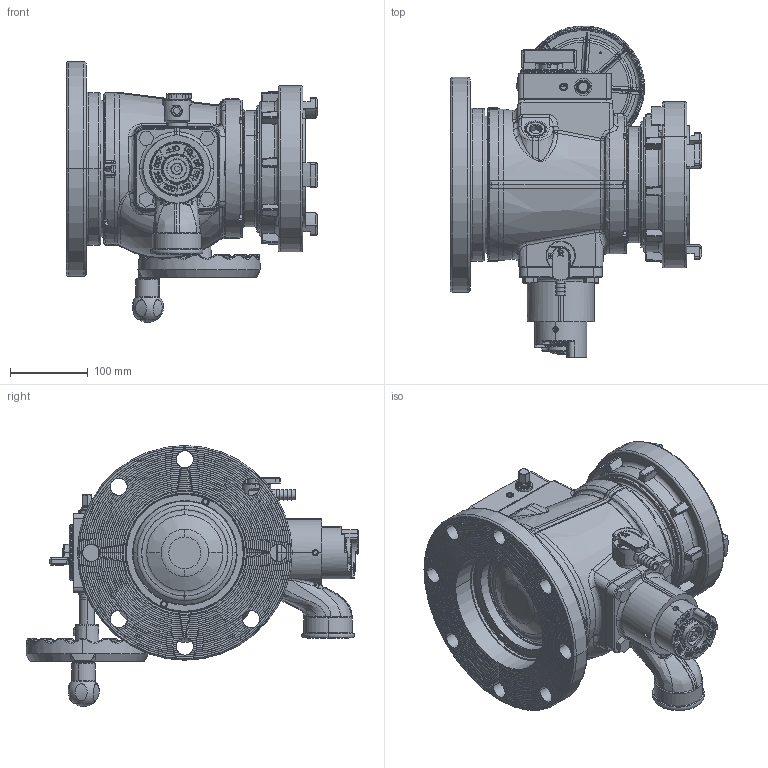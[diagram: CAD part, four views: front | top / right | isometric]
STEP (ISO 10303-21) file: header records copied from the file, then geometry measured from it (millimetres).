
FILE_DESCRIPTION (( 'STEP AP203' ), '1' );
FILE_NAME ('AP1SX-FX.step', '2014-05-13T19:13:48', ( 'user' ), ( '' ), 'SwSTEP 2.0', 'SolidWorks 2012', '' );
FILE_SCHEMA (( 'CONFIG_CONTROL_DESIGN' ));
Length unit declared in the file: inch
Products named in the file (1): AP1SX-FX
Bounding box: 323.84 x 428.06 x 336.49 mm (x, y, z)
Surface area: 748872 mm2 (no closed solid volume)
Topology: 0 solids, 138 shells, 2299 faces, 9924 edges, 7593 vertices
Faces by surface type: plane 748, cylinder 500, bspline 478, torus 290, cone 243, sphere 40
Entity records: 165691 total; most frequent: CARTESIAN_POINT 91652, ORIENTED_EDGE 14628, DIRECTION 13494, EDGE_CURVE 9887, VERTEX_POINT 7591, VECTOR 4600, LINE 4600, AXIS2_PLACEMENT_3D 4447
